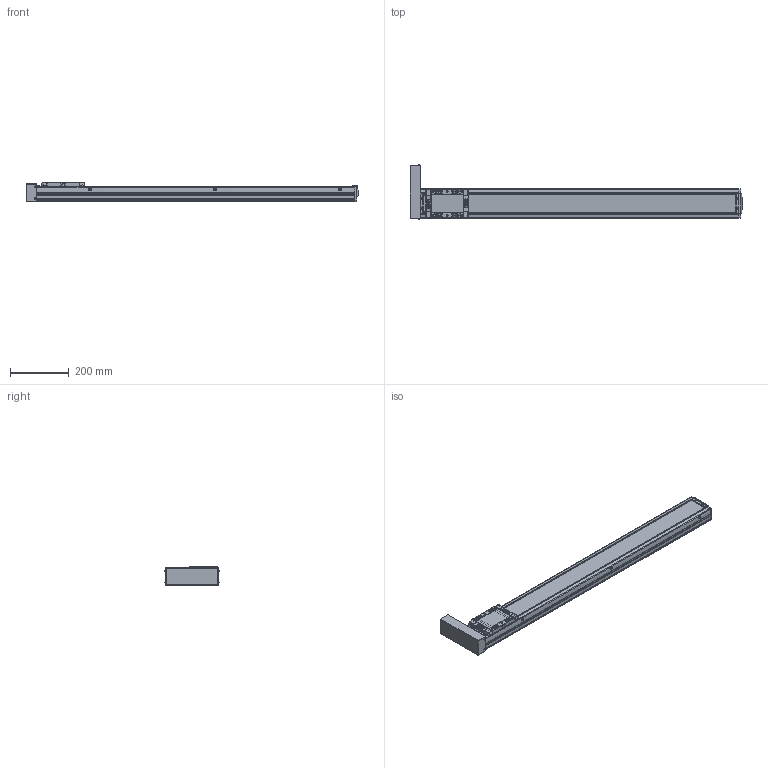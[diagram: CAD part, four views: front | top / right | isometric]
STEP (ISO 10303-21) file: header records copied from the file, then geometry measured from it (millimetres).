
FILE_DESCRIPTION(('STEP AP214'),'1');
FILE_NAME('Z:/Web/3D/SAN100/SAN100 양산용 (STEP)/SAN100ㅁㅁ-900PL.stp','2013-04-30T04:31:59',(' '),(' '),'Spatial InterOp 3D',' ',' ');
FILE_SCHEMA(('automotive_design'));
Length unit declared in the file: millimetre
Products named in the file (33): BTCV-SAN65; BHCS M3 X 6L; SUS COVER; SFX-SAN100; RRCV-SAN100; 스크루 : Round - M4.0 x 10.0; M3.0 x 6.0; 스크루 : Round - M3.0 x 6.0; FRBL-SAN100; SLBL-SAN100; SLCV-SAN100; 스크루 : Countersunk - M3.0 x 6.0; BASE; 스크루 : Round - M5.0 x 6.0
Bounding box: 1126.5 x 184.13 x 66 mm (x, y, z)
Volume: 3256505.8 mm3; surface area: 737292.5 mm2
Topology: 33 solids, 34 shells, 2014 faces, 5266 edges, 3379 vertices
Faces by surface type: plane 961, cylinder 781, cone 190, sphere 48, torus 18, bspline 16
Entity records: 79630 total; most frequent: CARTESIAN_POINT 12230, DIRECTION 11101, ORIENTED_EDGE 10320, EDGE_CURVE 5160, AXIS2_PLACEMENT_3D 4023, VERTEX_POINT 3379, LINE 3055, VECTOR 3055
